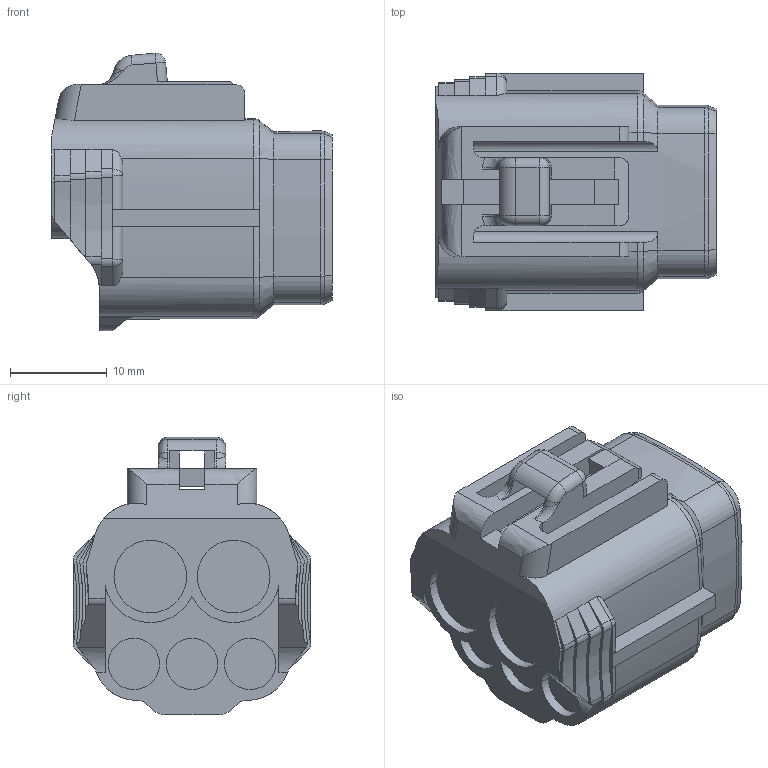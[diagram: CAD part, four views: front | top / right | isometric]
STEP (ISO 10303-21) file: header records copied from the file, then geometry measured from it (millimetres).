
FILE_DESCRIPTION(('CATIA V5 STEP Exchange'),'2;1');
FILE_NAME('N:\C-DAM_MyDesk\ENV\11093U\1設\6189-0166.stp','2013-02-28T03:05:03+00:00',('none'),('none'),'CATIA Version 5 Release 20 SP 4 (IN-10)','CATIA V5 STEP AP203','none');
FILE_SCHEMA(('CONFIG_CONTROL_DESIGN'));
Length unit declared in the file: millimetre
Products named in the file (1): 6189-0166
Bounding box: 28.9 x 24.5 x 28.61 mm (x, y, z)
Volume: 10286.9 mm3; surface area: 4330.6 mm2
Topology: 1 solids, 1 shells, 268 faces, 712 edges, 448 vertices
Faces by surface type: plane 125, cylinder 88, torus 19, cone 17, bspline 13, sphere 6
Entity records: 8458 total; most frequent: CARTESIAN_POINT 2230, ORIENTED_EDGE 1412, DIRECTION 1033, EDGE_CURVE 706, VERTEX_POINT 448, AXIS2_PLACEMENT_3D 417, VECTOR 407, LINE 407
